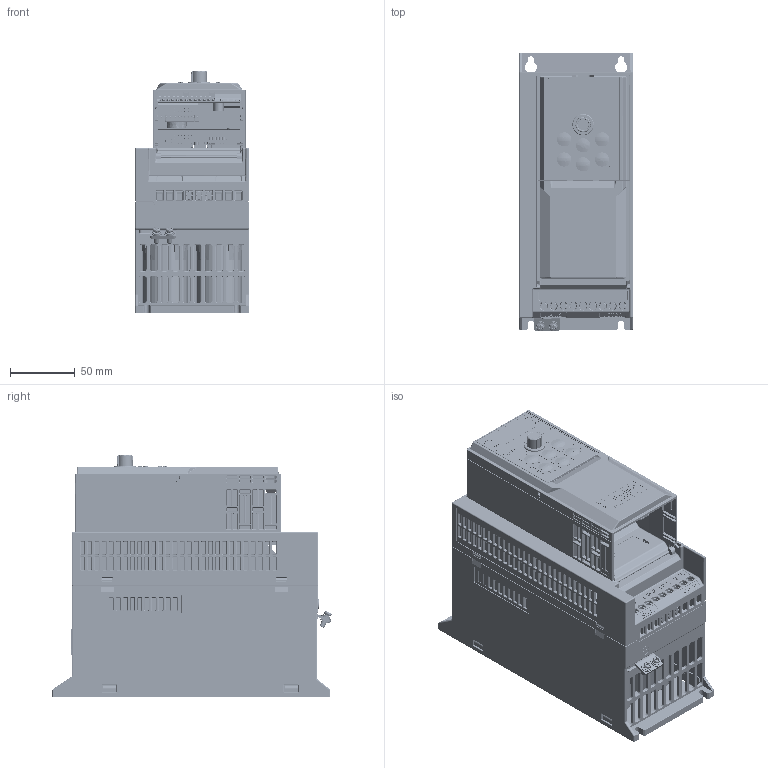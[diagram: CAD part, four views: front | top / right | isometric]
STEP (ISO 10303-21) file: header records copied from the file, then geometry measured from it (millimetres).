
FILE_DESCRIPTION((''),'2;1');
FILE_NAME('AD800P-D2-DRIVE_ASM','2025-06-24T15:26:09',('wendong.luo'),(''),'CREO PARAMETRIC BY PTC INC, 2024374','CREO PARAMETRIC BY PTC INC, 2024374','');
FILE_SCHEMA(('CONFIG_CONTROL_DESIGN','GEOMETRIC_VALIDATION_PROPERTIES_MIM'));
Products named in the file (35): D2_MECHANICAL_PART; E0200004-B; E0400127; E0400017; M0202003; D2-PU_ASM; M0104151; E0100736; E0400142; E0400150; E0400073; E0400023; E0100738_ASM; E0200416; M0104143; E0100735; E0400035; E0400118; E0400011; E0100737_ASM; M0104016; M0104018; E0100102; E0200191; E0200192; E0100102_ASM; M0104017; M0203163; EXTERNAL_KEYPAD_ASM; M0203158; M0203159; M0104150; M0203053; CU0P-ASSY_ASM; AD800P-D2-DRIVE_ASM
Assembly tree (40 placements, depth 5):
  AD800P-D2-DRIVE_ASM
    D2-PU_ASM
      D2_MECHANICAL_PART
      E0200004-B  x2
      E0400127
      E0400017
      M0202003  x2
    CU0P-ASSY_ASM
      M0104151
      E0100738_ASM
        E0100736
        E0400142
        E0400150
        E0400073  x2
        E0400023
      E0200416
      M0104143
      E0100737_ASM
        E0100735
        E0400035
        E0400118
        E0400023
        E0400011
      EXTERNAL_KEYPAD_ASM
        M0104016
        M0104018
        E0100102_ASM
          E0100102
          E0200191
          E0200192
          E0400035
          E0400011
        M0104017
        M0203163
      M0203158
      M0203159
      M0104150
      M0203053
Bounding box: 88 x 216.34 x 187.6 mm (x, y, z)
Volume: 1516998.6 mm3; surface area: 555120.4 mm2
Topology: 59 solids, 122 shells, 21349 faces, 56062 edges, 35684 vertices
Faces by surface type: plane 10645, cylinder 5049, bspline 2090, extrusion 1849, cone 1010, torus 543, sphere 163
Entity records: 901113 total; most frequent: CARTESIAN_POINT 255065, ORIENTED_EDGE 102222, DIRECTION 82337, EDGE_CURVE 51251, PRESENTATION_STYLE_ASSIGNMENT 50969, STYLED_ITEM 49039, CURVE_STYLE 44665, VECTOR 32729
